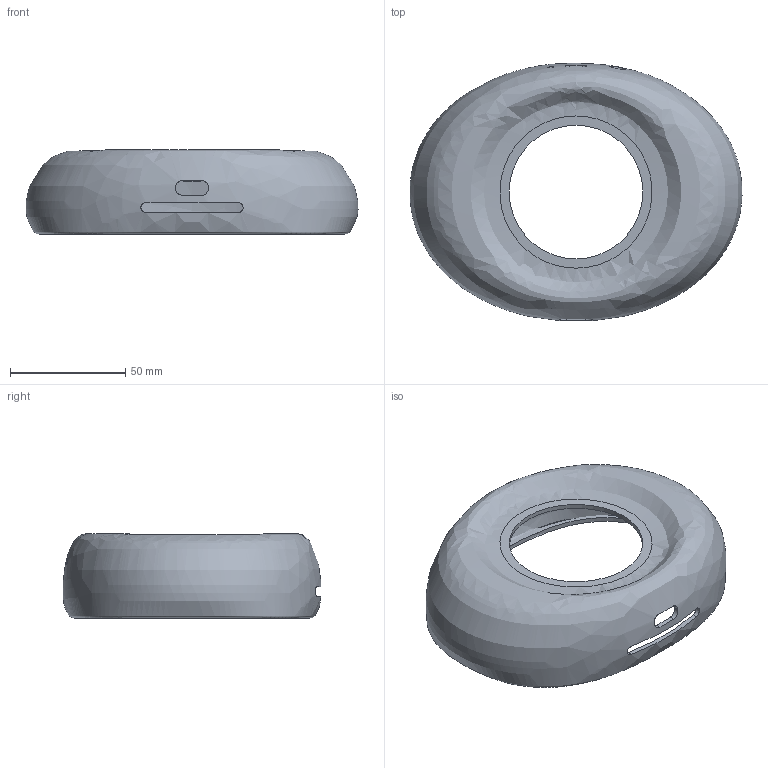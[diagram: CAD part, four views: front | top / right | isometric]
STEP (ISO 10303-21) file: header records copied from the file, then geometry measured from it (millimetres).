
FILE_DESCRIPTION(('Open CASCADE Model'),'2;1');
FILE_NAME('Open CASCADE Shape Model','2026-11-11T21:44:34',('Author'),( 'Open CASCADE'),'Open CASCADE STEP processor 8.0','build123d', 'Unknown');
FILE_SCHEMA(('AUTOMOTIVE_DESIGN { 1 0 10303 214 1 1 1 1 }'));
Length unit declared in the file: millimetre
Products named in the file (1): SOLID
Bounding box: 143.94 x 111.66 x 36.52 mm (x, y, z)
Volume: 43246 mm3; surface area: 44905.9 mm2
Topology: 1 solids, 1 shells, 24 faces, 70 edges, 46 vertices
Faces by surface type: cylinder 11, plane 10, bspline 2, extrusion 1
Full cylindrical faces by diameter (mm): 2.6 x1, 7 x1, 58 x1
Entity records: 30185 total; most frequent: CARTESIAN_POINT 29030, ORIENTED_EDGE 140, PCURVE 140, DEFINITIONAL_REPRESENTATION 140, B_SPLINE_CURVE_WITH_KNOTS 135, DIRECTION 119, EDGE_CURVE 70, VECTOR 69
